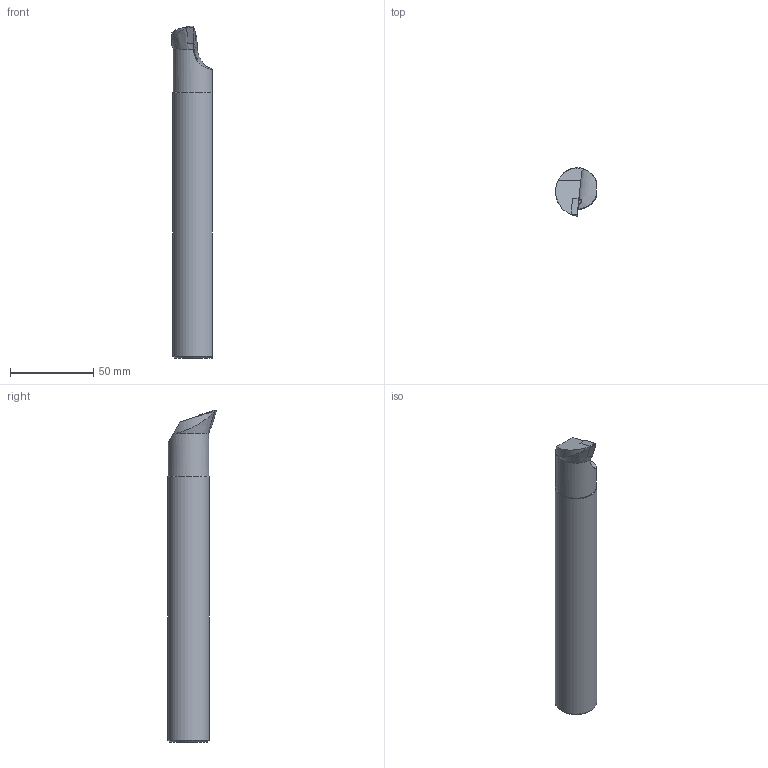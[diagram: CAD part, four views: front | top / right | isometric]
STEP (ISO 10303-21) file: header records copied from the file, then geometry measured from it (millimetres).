
FILE_DESCRIPTION(/* description */ (''),/* implementation_level */ '2;1');
FILE_NAME(/* name */ 'A25R-SDQCR-11-HAAS.stp',/* time_stamp */ '2021-09-29T11:17:01+09:00',/* author */ (''),/* organization */ (''),/* preprocessor_version */ 'ST-DEVELOPER v16',/* originating_system */ 'SIEMENS PLM Software NX 10.0',/* authorisation */ '');
FILE_SCHEMA (('AUTOMOTIVE_DESIGN { 1 0 10303 214 3 1 1 1 }'));
Length unit declared in the file: millimetre
Products named in the file (1): model1
Bounding box: 24.54 x 29.28 x 199.79 mm (x, y, z)
Volume: 85677.7 mm3; surface area: 19409.8 mm2
Topology: 2 solids, 2 shells, 24 faces, 55 edges, 36 vertices
Faces by surface type: plane 13, cone 5, cylinder 5, bspline 1
Full cylindrical faces by diameter (mm): 2.5 x1, 6 x1
Entity records: 791 total; most frequent: CARTESIAN_POINT 237, DIRECTION 106, ORIENTED_EDGE 104, EDGE_CURVE 52, AXIS2_PLACEMENT_3D 41, VERTEX_POINT 35, EDGE_LOOP 27, ADVANCED_FACE 24
